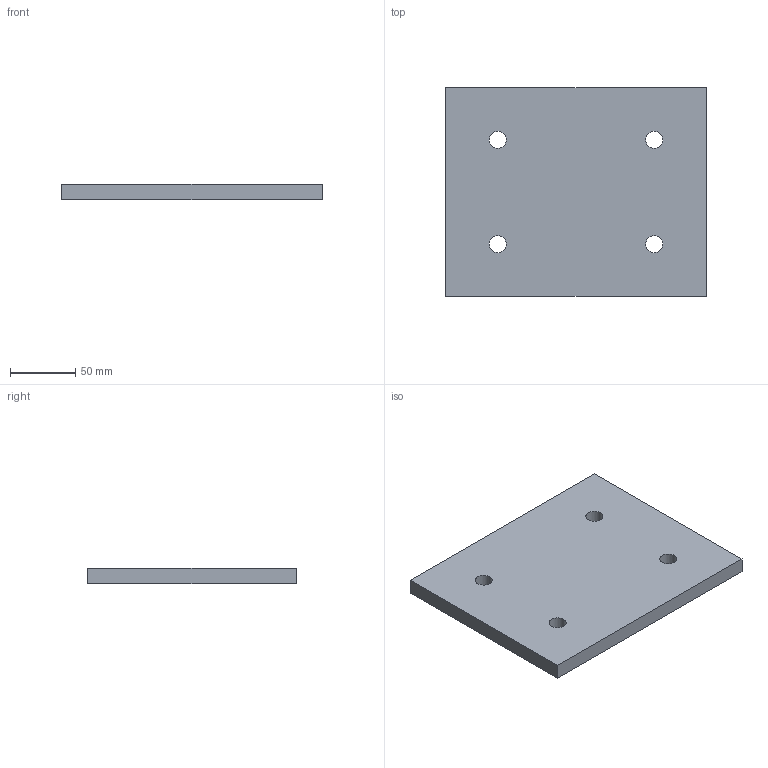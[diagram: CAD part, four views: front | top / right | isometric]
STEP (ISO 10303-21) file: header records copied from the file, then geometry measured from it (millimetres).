
FILE_DESCRIPTION(('Open CASCADE Model'),'2;1');
FILE_NAME('Open CASCADE Shape Model','2026-10-19T10:09:27',('Author'),( 'Open CASCADE'),'Open CASCADE STEP processor 8.0','Open CASCADE 8.0' ,'Unknown');
FILE_SCHEMA(('AUTOMOTIVE_DESIGN { 1 0 10303 214 1 1 1 1 }'));
Length unit declared in the file: millimetre
Products named in the file (1): AC_UNION_ZANCA_200x160x12 175
Bounding box: 200 x 160 x 12 mm (x, y, z)
Volume: 377628.9 mm3; surface area: 73538.5 mm2
Topology: 1 solids, 1 shells, 10 faces, 24 edges, 16 vertices
Faces by surface type: plane 6, cylinder 4
Full cylindrical faces by diameter (mm): 13 x4
Entity records: 634 total; most frequent: DIRECTION 102, CARTESIAN_POINT 99, LINE 56, VECTOR 56, ORIENTED_EDGE 48, PCURVE 48, DEFINITIONAL_REPRESENTATION 48, EDGE_CURVE 24
